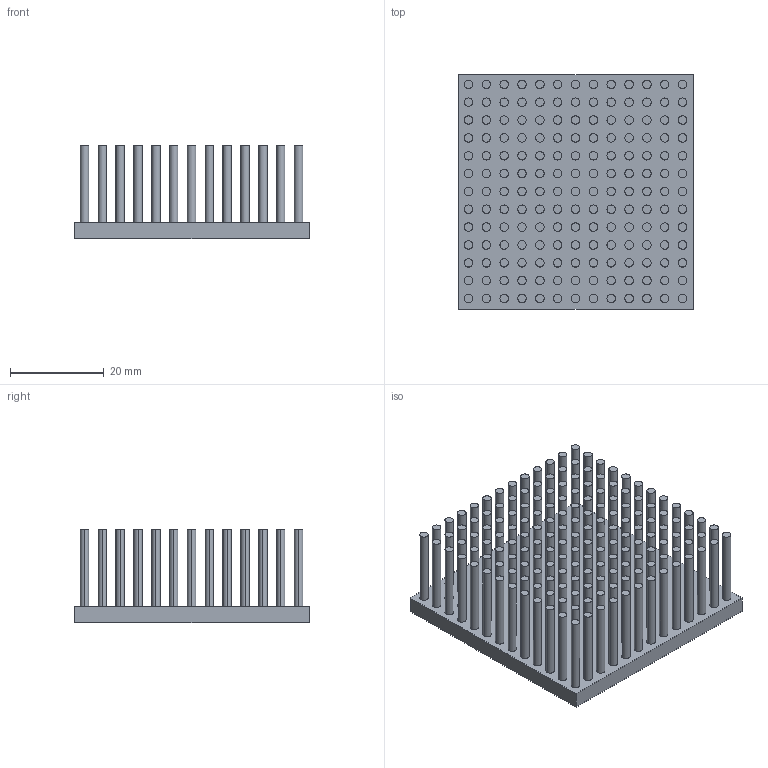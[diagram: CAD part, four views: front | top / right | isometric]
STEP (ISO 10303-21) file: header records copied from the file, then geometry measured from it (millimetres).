
FILE_DESCRIPTION (( 'STEP AP214' ), '1' );
FILE_NAME ('PO50_50_20.STEP', '2015-04-16T10:03:16', ( '' ), ( '' ), 'SwSTEP 2.0', 'SolidWorks 2015', '' );
FILE_SCHEMA (( 'AUTOMOTIVE_DESIGN' ));
Length unit declared in the file: millimetre
Products named in the file (1): PO50_50_20
Bounding box: 50 x 50 x 20 mm (x, y, z)
Volume: 15845.9 mm3; surface area: 21468.6 mm2
Topology: 1 solids, 1 shells, 513 faces, 1026 edges, 684 vertices
Faces by surface type: cylinder 338, plane 175
Entity records: 13710 total; most frequent: DIRECTION 2730, CARTESIAN_POINT 2224, ORIENTED_EDGE 2052, AXIS2_PLACEMENT_3D 1190, EDGE_CURVE 1026, VERTEX_POINT 684, EDGE_LOOP 682, CIRCLE 676
